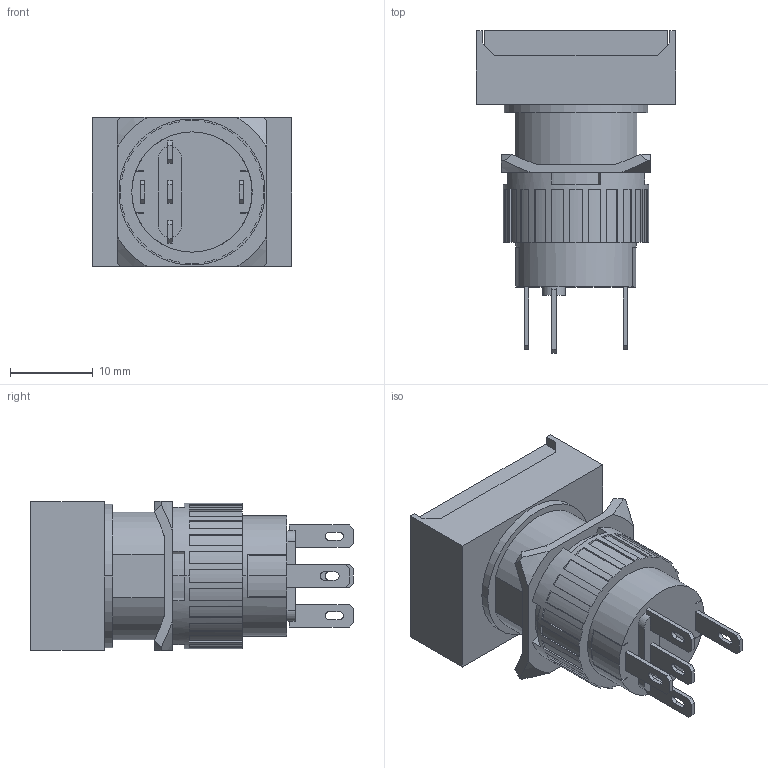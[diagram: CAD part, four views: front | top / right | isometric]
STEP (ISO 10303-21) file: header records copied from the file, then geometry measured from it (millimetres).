
FILE_DESCRIPTION (( 'STEP AP203' ), '1' );
FILE_NAME ('P16-IL.STEP', '2018-02-15T15:23:36', ( '' ), ( '' ), 'SwSTEP 2.0', 'SolidWorks 2012', '' );
FILE_SCHEMA (( 'CONFIG_CONTROL_DESIGN' ));
Length unit declared in the file: millimetre
Products named in the file (1): P16-IL
Bounding box: 24 x 38.9 x 18 mm (x, y, z)
Volume: 8221.5 mm3; surface area: 4423.3 mm2
Topology: 1 solids, 1 shells, 256 faces, 728 edges, 484 vertices
Faces by surface type: plane 184, cylinder 60, cone 12
Entity records: 8457 total; most frequent: CARTESIAN_POINT 1541, ORIENTED_EDGE 1456, DIRECTION 1414, EDGE_CURVE 728, LINE 508, VECTOR 508, VERTEX_POINT 484, AXIS2_PLACEMENT_3D 453
